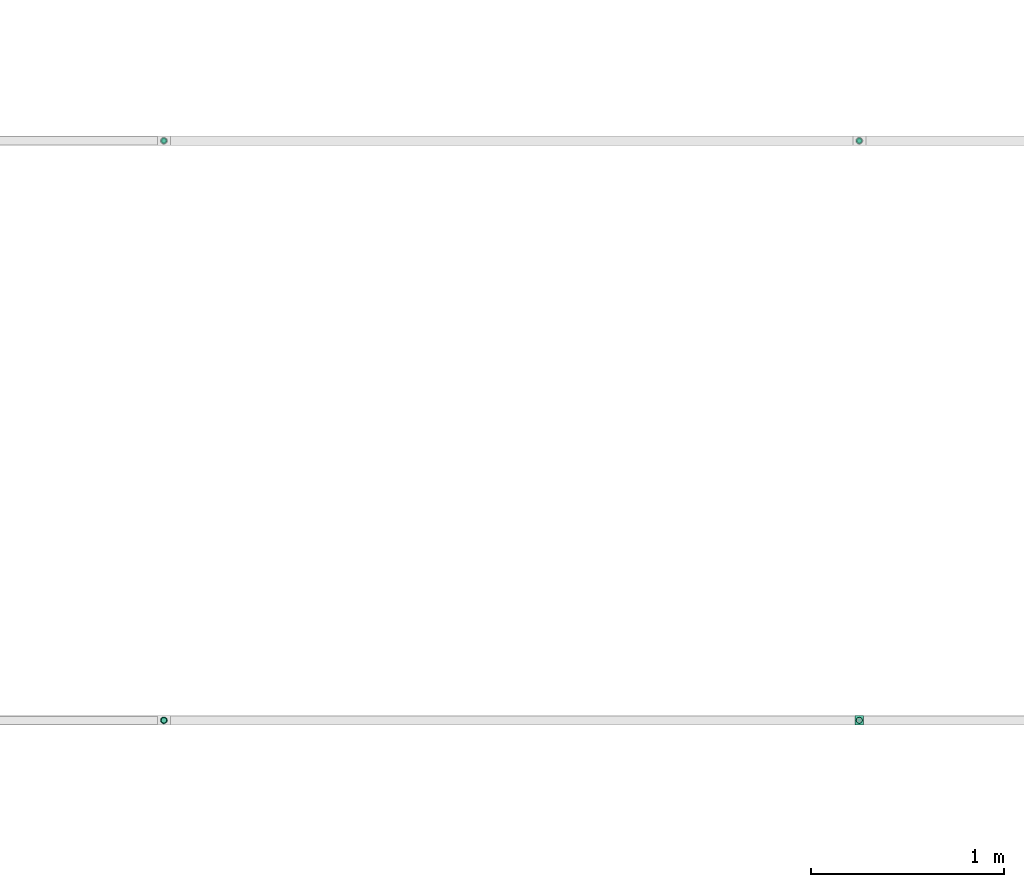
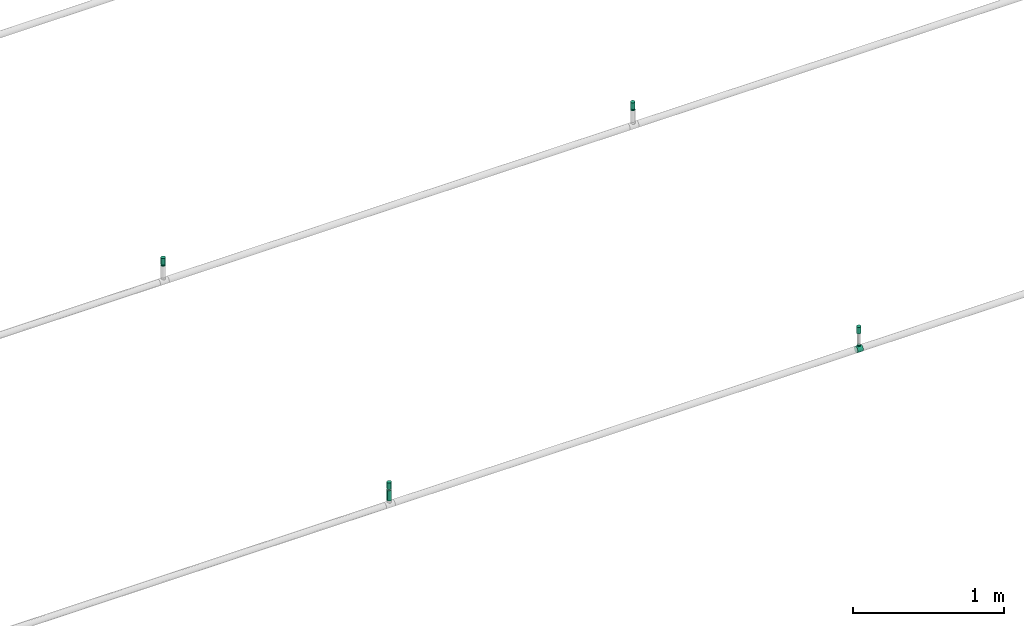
# One storey, part 9 of 14: 4 flow terminals, 3 flow fittings, 1 flow segment.
"""IFC2X3 building model written with IfcOpenShell, lengths in millimetres."""

import ifcopenshell
import ifcopenshell.guid

model = None  # the IFC model being written
_history = None  # IfcOwnerHistory: only IFC2X3 demands one
_inside = {}  # id of a spatial element -> (the spatial element, [elements in it])
_under = {}  # id of a project, library or spatial element -> (it, [spatial elements below it])
_declared = {}  # id of a project -> (the project, [libraries it declares])
_typed = {}  # id of a type object -> (the type object, [elements of that type])
_made_of = {}  # id of a material, layer set ... -> (it, [elements and type objects made of it])


def new_model(schema):
    """Start an empty IFC model of exactly this schema.

    Asked for "IFC4X3", IfcOpenShell would pick the latest addendum, in which some entities
    have other attributes; the version numbers below select the first issue.
    IFC2X3 requires an IfcOwnerHistory on every rooted entity: one is made here for all.
    """
    global model, _history
    if schema == "IFC4X3":
        model = ifcopenshell.file(schema_version=(4, 3, 0, 0))
    else:
        model = ifcopenshell.file(schema=schema)
    _inside.clear()
    _under.clear()
    _declared.clear()
    _typed.clear()
    _made_of.clear()
    _history = None
    if model.schema == "IFC2X3":
        org = make("IfcOrganization", Name="unknown")
        user = make(
            "IfcPersonAndOrganization",
            ThePerson=make("IfcPerson", FamilyName="unknown"),
            TheOrganization=org,
        )
        app = make(
            "IfcApplication",
            ApplicationDeveloper=org,
            Version="unknown",
            ApplicationFullName="unknown",
            ApplicationIdentifier="unknown",
        )
        _history = make(
            "IfcOwnerHistory",
            OwningUser=user,
            OwningApplication=app,
            ChangeAction="ADDED",
            CreationDate=0,
        )
    return model


def make(cls, **values):
    """One entity of the class cls with the attributes given. An attribute that is None is left unset."""
    return model.create_entity(
        cls, **{name: value for name, value in values.items() if value is not None}
    )


def entity(cls, *values):
    """Any entity or typed value of the class cls, its attributes in the order of the schema. None: left unset."""
    e = model.create_entity(cls)
    for i, value in enumerate(values):
        if value is not None:
            e[i] = value
    return e


def rooted(cls, **values):
    """An entity with a GlobalId (a new one), such as an element, a storey or a relation."""
    return make(cls, GlobalId=ifcopenshell.guid.new(), OwnerHistory=_history, **values)


def si_unit(unit_type, name, prefix=None):
    """IfcSIUnit, for example si_unit("LENGTHUNIT", "METRE", prefix="MILLI")."""
    return make("IfcSIUnit", UnitType=unit_type, Prefix=prefix, Name=name)


def converted_unit(unit_type, name, factor, base, dimensions=None, offset=None):
    """IfcConversionBasedUnit, such as the inch: factor (a typed value) times the base unit."""
    return make(
        "IfcConversionBasedUnit"
        if offset is None
        else "IfcConversionBasedUnitWithOffset",
        ConversionOffset=offset,
        Dimensions=None
        if dimensions is None
        else entity("IfcDimensionalExponents", *dimensions),
        UnitType=unit_type,
        Name=name,
        ConversionFactor=make(
            "IfcMeasureWithUnit", ValueComponent=factor, UnitComponent=base
        ),
    )


def derived_unit(unit_type, elements):
    """IfcDerivedUnit: a product of units, each with its exponent."""
    return make(
        "IfcDerivedUnit",
        Elements=[
            make("IfcDerivedUnitElement", Unit=unit, Exponent=power)
            for unit, power in elements
        ],
        UnitType=unit_type,
    )


def assignment(units):
    """IfcUnitAssignment: the units of a project."""
    return None if units is None else make("IfcUnitAssignment", Units=units)


def point(xyz):
    """IfcCartesianPoint."""
    return None if xyz is None else make("IfcCartesianPoint", Coordinates=xyz)


def direction(xyz):
    """IfcDirection."""
    return None if xyz is None else make("IfcDirection", DirectionRatios=xyz)


def frame(location, z_axis=None, x_axis=None):
    """IfcAxis2Placement3D, a coordinate frame: its origin and axes. An axis left out is left unset."""
    return make(
        "IfcAxis2Placement3D",
        Location=point(location),
        Axis=direction(z_axis),
        RefDirection=direction(x_axis),
    )


def frame_2d(location, x_axis=None):
    """IfcAxis2Placement2D, a coordinate frame in the plane: its origin and x axis."""
    return make(
        "IfcAxis2Placement2D", Location=point(location), RefDirection=direction(x_axis)
    )


def origin_with_axes():
    """The frame at (0, 0, 0) with the z axis (0, 0, 1) and the x axis (1, 0, 0) written out."""
    return frame((0.0, 0.0, 0.0), z_axis=(0.0, 0.0, 1.0), x_axis=(1.0, 0.0, 0.0))


def origin_2d_with_axis():
    """The frame at (0, 0) in the plane with the x axis (1, 0) written out."""
    return frame_2d((0.0, 0.0), x_axis=(1.0, 0.0))


def place(relative_to, where):
    """IfcLocalPlacement: puts the frame where relative to a parent placement (None: the world)."""
    return make(
        "IfcLocalPlacement", PlacementRelTo=relative_to, RelativePlacement=where
    )


def context(
    kind, dimensions, precision=None, world=None, true_north=None, identifier=None
):
    """IfcGeometricRepresentationContext, for example the 3D "Model" context."""
    return make(
        "IfcGeometricRepresentationContext",
        ContextIdentifier=identifier,
        ContextType=kind,
        CoordinateSpaceDimension=dimensions,
        Precision=precision,
        WorldCoordinateSystem=world,
        TrueNorth=true_north,
    )


def subcontext(parent, identifier, kind, view, scale=None):
    """IfcGeometricRepresentationSubContext, for example "Body" below "Model"."""
    return make(
        "IfcGeometricRepresentationSubContext",
        ContextIdentifier=identifier,
        ContextType=kind,
        ParentContext=parent,
        TargetScale=scale,
        TargetView=view,
    )


def project(units=None, contexts=None):
    """IfcProject with its units and contexts."""
    return rooted(
        "IfcProject",
        Name="project",
        RepresentationContexts=contexts,
        UnitsInContext=assignment(units),
    )


def spatial(cls, under=None, at=None, **own):
    """A site, building, storey or space (cls), placed at a placement, below another one or the project."""
    s = rooted(cls, ObjectPlacement=at, **own)
    if under is not None:
        _under.setdefault(under.id(), (under, []))[1].append(s)
    return s


def profile(cls, at=None, kind="AREA", **sizes):
    """A parametric profile (cls). Its sizes go by their IFC names, for example OverallWidth=200.0."""
    return make(cls, ProfileType=kind, Position=at, **sizes)


def hollow_circle(**sizes):
    """IfcCircleHollowProfileDef."""
    return profile("IfcCircleHollowProfileDef", **sizes)


def extrude(swept, where, along, depth):
    """IfcExtrudedAreaSolid: the profile swept, set in the frame where, extruded along a direction by depth."""
    return make(
        "IfcExtrudedAreaSolid",
        SweptArea=swept,
        Position=where,
        ExtrudedDirection=direction(along),
        Depth=depth,
    )


def faces_of(points, faces, orient=None, outer=None):
    """IfcFace entities. A face is a list of loops; a loop is a list of indices into points, from 0.

    orient and outer hold one flag for each loop. By default every Orientation is true, the
    first loop of a face is its IfcFaceOuterBound and the others are IfcFaceBound.
    """
    made = []
    for i, loops in enumerate(faces):
        bounds = []
        for j, loop in enumerate(loops):
            is_outer = j == 0 if outer is None else outer[i][j]
            bounds.append(
                make(
                    "IfcFaceOuterBound" if is_outer else "IfcFaceBound",
                    Bound=make("IfcPolyLoop", Polygon=[points[k] for k in loop]),
                    Orientation=True if orient is None else orient[i][j],
                )
            )
        made.append(make("IfcFace", Bounds=bounds))
    return made


def open_shell(faces, orient=None, outer=None):
    """The faces of one IfcOpenShell. surface_model builds it on its shared points."""
    return ("IfcOpenShell", faces, orient, outer)


def surface_model(cls, points, shells):
    """IfcFaceBasedSurfaceModel or IfcShellBasedSurfaceModel (cls): surfaces that need not close."""
    shared = [point(p) for p in points]
    made = [make(c, CfsFaces=faces_of(shared, fs, o, b)) for c, fs, o, b in shells]
    if cls == "IfcFaceBasedSurfaceModel":
        return make(cls, FbsmFaces=made)
    return make(cls, SbsmBoundary=made)


def shape(context_of_items, identifier, shape_type, items):
    """IfcShapeRepresentation: the items that make up one representation, for example the "Body"."""
    return make(
        "IfcShapeRepresentation",
        ContextOfItems=context_of_items,
        RepresentationIdentifier=identifier,
        RepresentationType=shape_type,
        Items=items,
    )


def source(mapping_origin, context_of_items, identifier, shape_type, items):
    """IfcRepresentationMap: a shape defined once, which mapped items show again and again."""
    return make(
        "IfcRepresentationMap",
        MappingOrigin=mapping_origin,
        MappedRepresentation=shape(context_of_items, identifier, shape_type, items),
    )


def transform(
    local_origin,
    x_axis=None,
    y_axis=None,
    z_axis=None,
    scale=None,
    scale2=None,
    scale3=None,
    uniform=True,
):
    """IfcCartesianTransformationOperator3D, or its non-uniform kind. x_axis, y_axis, z_axis: its Axis1, 2, 3."""
    if uniform:
        return make(
            "IfcCartesianTransformationOperator3D",
            Axis1=direction(x_axis),
            Axis2=direction(y_axis),
            LocalOrigin=point(local_origin),
            Scale=scale,
            Axis3=direction(z_axis),
        )
    return make(
        "IfcCartesianTransformationOperator3DnonUniform",
        Axis1=direction(x_axis),
        Axis2=direction(y_axis),
        LocalOrigin=point(local_origin),
        Scale=scale,
        Axis3=direction(z_axis),
        Scale2=scale2,
        Scale3=scale3,
    )


def mapped(mapping_source, mapping_target):
    """IfcMappedItem: shows the shape of a source again, moved by a transform."""
    return make(
        "IfcMappedItem", MappingSource=mapping_source, MappingTarget=mapping_target
    )


def made_of(thing, what):
    """Note that an element or type object is made of a material, layer set ...; save() writes the relation."""
    if what is not None:
        _made_of.setdefault(what.id(), (what, []))[1].append(thing)
    return thing


def type_object(cls, material=None, **own):
    """A type object (cls), such as IfcWallType, which elements share."""
    return made_of(rooted(cls, **own), material)


def element(
    cls,
    number,
    at=None,
    inside=None,
    cuts=None,
    type_object=None,
    material=None,
    context=None,
    identifier="Body",
    shape_type=None,
    held_by="IfcProductDefinitionShape",
    body=None,
    shapes=None,
    **own,
):
    """One element of the class cls, such as IfcWall. Its Tag is "e" and its number.

    at: its placement. inside: the storey or other place that contains it. cuts: it is an
    opening in that element (IfcRelVoidsElement). A single representation is given by context,
    identifier, shape_type and body (its items); several are given by shapes. held_by: the class
    of the entity that holds the representations. save() writes the other relations.
    """
    e = rooted(cls, Tag="e%d" % number, ObjectPlacement=at, **own)
    if body is not None:
        shapes = [shape(context, identifier, shape_type, body)]
    if shapes is not None:
        e.Representation = make(held_by, Representations=shapes)
    if inside is not None:
        _inside.setdefault(inside.id(), (inside, []))[1].append(e)
    if cuts is not None:
        rooted(
            "IfcRelVoidsElement", RelatingBuildingElement=cuts, RelatedOpeningElement=e
        )
    if type_object is not None:
        _typed.setdefault(type_object.id(), (type_object, []))[1].append(e)
    return made_of(e, material)


def aggregate(whole, parts):
    """IfcRelAggregates: a whole, such as a stair, and the parts it consists of."""
    return rooted("IfcRelAggregates", RelatingObject=whole, RelatedObjects=parts)


def save(model, path):
    """Write the relations noted so far, then the file.

    IfcRelAggregates (storeys below a building ...), IfcRelContainedInSpatialStructure (elements
    in a storey), IfcRelDefinesByType, IfcRelAssociatesMaterial and IfcRelDeclares: one each for
    every whole, place, type object, material and project.
    """
    for whole, parts in _under.values():
        aggregate(whole, parts)
    for where, things in _inside.values():
        rooted(
            "IfcRelContainedInSpatialStructure",
            RelatedElements=things,
            RelatingStructure=where,
        )
    for kind, things in _typed.values():
        rooted("IfcRelDefinesByType", RelatedObjects=things, RelatingType=kind)
    for what, things in _made_of.values():
        rooted("IfcRelAssociatesMaterial", RelatedObjects=things, RelatingMaterial=what)
    for by, libraries in _declared.values():
        rooted("IfcRelDeclares", RelatingContext=by, RelatedDefinitions=libraries)
    model.write(path)


model = new_model("IFC2X3")

# Units and contexts
model_context = context("Model", 3, precision=0.01, world=frame((0.0, 4.29681676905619e-09, 0.0)), true_north=direction((4.01073788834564e-13, 1.0)))
plan_context = context("Plan", 3, precision=0.01, world=frame((0.0, 4.29681676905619e-09, 0.0)), true_north=direction((4.01073788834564e-13, 1.0)))
body_context = subcontext(model_context, "Body", "Model", "MODEL_VIEW")
ifc_project = project(units=[converted_unit("PLANEANGLEUNIT", "DEGREE", entity("IfcPositiveLengthMeasure", 0.0174532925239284), si_unit("PLANEANGLEUNIT", "RADIAN"), dimensions=[0, 0, 0, 0, 0, 0, 0]), si_unit("AREAUNIT", "SQUARE_METRE"), si_unit("LENGTHUNIT", "METRE", prefix="MILLI"), si_unit("MASSUNIT", "GRAM", prefix="KILO"), si_unit("POWERUNIT", "WATT"), si_unit("PRESSUREUNIT", "PASCAL"), si_unit("FORCEUNIT", "NEWTON", prefix="KILO"), si_unit("ELECTRICVOLTAGEUNIT", "VOLT"), si_unit("ELECTRICCURRENTUNIT", "AMPERE"), si_unit("THERMODYNAMICTEMPERATUREUNIT", "DEGREE_CELSIUS"), si_unit("TIMEUNIT", "SECOND"), si_unit("VOLUMEUNIT", "CUBIC_METRE"), derived_unit("LINEARVELOCITYUNIT", [(si_unit("LENGTHUNIT", "METRE"), 1), (si_unit("TIMEUNIT", "SECOND"), -1)]), derived_unit("VOLUMETRICFLOWRATEUNIT", [(si_unit("VOLUMEUNIT", "CUBIC_METRE"), 1), (si_unit("TIMEUNIT", "SECOND"), -1)]), derived_unit("THERMALTRANSMITTANCEUNIT", [(si_unit("POWERUNIT", "WATT"), 1), (si_unit("THERMODYNAMICTEMPERATUREUNIT", "KELVIN"), -1), (si_unit("AREAUNIT", "SQUARE_METRE"), -1)]), derived_unit("SOUNDPRESSUREUNIT", [(si_unit("PRESSUREUNIT", "PASCAL"), 1)])], contexts=[model_context, plan_context])

# Site, building, storey
site_placement = place(None, frame((0.0, -4.29681676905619e-09, 0.0), z_axis=(0.0, 0.0, 1.0), x_axis=(1.0, 0.0, 0.0)))
site = spatial("IfcSite", under=ifc_project, at=site_placement, CompositionType="ELEMENT")
building_placement = place(site_placement, frame((0.0, 4.29681676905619e-09, 0.0), z_axis=(0.0, 0.0, 1.0), x_axis=(1.0, 0.0, 0.0)))
building = spatial("IfcBuilding", under=site, at=building_placement, Name="mc-building", CompositionType="ELEMENT")
storey_placement = place(building_placement, frame((0.0, 0.0, 204000.0), z_axis=(0.0, 0.0, 1.0), x_axis=(1.0, 0.0, 0.0)))
storey = spatial("IfcBuildingStorey", under=building, at=storey_placement, Name="Nivå D", CompositionType="ELEMENT", Elevation=204000.0)

# Flow fittings
pipe_fitting_type_1 = type_object("IfcPipeFittingType", Name="magi_pipe_fe_reducer_centric_short_NOR", PredefinedType="TRANSITION")
shared_shape_1 = source(origin_with_axes(), body_context, "Body", "SurfaceModel", [
    surface_model("IfcShellBasedSurfaceModel", [(14.4, 5.35, -9.26647), (14.4, 0.0, -10.7), (14.4, 2.76936, -10.33541), (14.4, 10.33541, -2.76936), (14.4, 7.56604, -7.56604), (14.4, -5.35, -9.26647), (14.4, 9.26647, -5.35), (14.4, -9.26647, 5.35), (14.4, -2.76936, -10.33541), (14.4, -7.56604, -7.56604), (14.4, -10.33541, -2.76936), (14.4, -9.26647, -5.35), (14.4, 10.33541, 2.76936), (14.4, 10.7, 0.0), (14.4, 9.26647, 5.35), (14.4, 7.56604, 7.56604), (14.4, 2.76936, 10.33541), (14.4, 0.0, 10.7), (14.4, 5.35, 9.26647), (14.4, -10.33541, 2.76936), (14.4, -10.7, 0.0), (14.4, -7.56604, 7.56604), (14.4, -2.76936, 10.33541), (14.4, -5.35, 9.26647), (12.4, 0.0, 10.7), (12.4, 2.76936, 10.33541), (12.4, 5.35, 9.26647), (12.4, 7.56604, 7.56604), (12.4, 9.26647, 5.35), (12.4, 10.33541, 2.76936), (12.4, -10.33541, 2.76936), (12.4, 10.33541, -2.76936), (12.4, -2.76936, 10.33541), (12.4, -7.56604, 7.56604), (12.4, -5.35, 9.26647), (12.4, -9.26647, 5.35), (12.4, -10.33541, -2.76936), (12.4, -10.7, 0.0), (12.4, 2.76936, -10.33541), (12.4, 9.26647, -5.35), (12.4, 7.56604, -7.56604), (12.4, 5.35, -9.26647), (12.4, -7.56604, -7.56604), (12.4, -9.26647, -5.35), (12.4, -5.35, -9.26647), (12.4, 0.0, -10.7), (12.4, -2.76936, -10.33541), (12.4, 10.7, 0.0), (-2.0, 11.9501, 11.9501), (-2.0, 0.0, 16.9), (-2.0, 4.37404, 16.32415), (-2.0, 8.45, 14.63583), (-2.0, 14.63583, 8.45), (-2.0, 16.32415, 4.37404), (-2.0, -16.32415, 4.37404), (-2.0, -8.45, 14.63583), (-2.0, -14.63583, 8.45), (-2.0, -11.9501, 11.9501), (-2.0, -4.37404, 16.32415), (-2.0, -16.32415, -4.37404), (-2.0, -16.9, 0.0), (-2.0, -8.45, -14.63583), (-2.0, 16.32415, -4.37404), (-2.0, 11.9501, -11.9501), (-2.0, 14.63583, -8.45), (-2.0, 8.45, -14.63583), (-2.0, 4.37404, -16.32415), (-2.0, 0.0, -16.9), (-2.0, -11.9501, -11.9501), (-2.0, -14.63583, -8.45), (-2.0, -4.37404, -16.32415), (-2.0, 16.9, 0.0), (0.0, 4.37404, -16.32415), (0.0, 8.45, -14.63583), (0.0, 11.9501, -11.9501), (0.0, 0.0, -16.9), (0.0, 16.32415, -4.37404), (0.0, 16.32415, 4.37404), (0.0, 14.63583, -8.45), (0.0, -8.45, -14.63583), (0.0, -4.37404, -16.32415), (0.0, -11.9501, -11.9501), (0.0, -16.32415, -4.37404), (0.0, -14.63583, -8.45), (0.0, -16.32415, 4.37404), (0.0, 16.9, 0.0), (0.0, 14.63583, 8.45), (0.0, 11.9501, 11.9501), (0.0, 4.37404, 16.32415), (0.0, 8.45, 14.63583), (0.0, 0.0, 16.9), (0.0, -14.63583, 8.45), (0.0, -16.9, 0.0), (0.0, -8.45, 14.63583), (0.0, -11.9501, 11.9501), (0.0, -4.37404, 16.32415), (12.4, 9.3625, -2.31662), (0.0, 14.42505, -5.97505), (0.0, 15.66253, -2.98753), (12.4, -6.6875, -6.94985), (0.0, -13.18758, -8.96258), (0.0, 2.98753, -15.66253), (12.4, 0.0, -9.26647), (12.4, 6.6875, -6.94985), (0.0, 8.96258, -13.18758), (12.4, -9.3625, -2.31662), (0.0, -15.66253, -2.98753), (0.0, -14.42505, -5.97505), (0.0, 5.97505, -14.42505), (0.0, -2.98753, -15.66253), (0.0, -8.96258, -13.18758), (0.0, 13.18758, -8.96258), (12.4, 8.025, -4.63324), (12.4, -2.675, -9.26647), (12.4, 2.675, -9.26647), (0.0, -5.97505, -14.42505), (12.4, -8.025, -4.63324), (12.4, -9.3625, 2.31662), (0.0, -14.42505, 5.97505), (0.0, -15.66253, 2.98753), (12.4, 6.6875, 6.94985), (0.0, 13.18758, 8.96258), (0.0, -2.98753, 15.66253), (12.4, 0.0, 9.26647), (12.4, -6.6875, 6.94985), (0.0, -8.96258, 13.18758), (12.4, 9.3625, 2.31662), (0.0, 15.66253, 2.98753), (0.0, 14.42505, 5.97505), (0.0, -5.97505, 14.42505), (0.0, 2.98753, 15.66253), (0.0, 8.96258, 13.18758), (0.0, -13.18758, 8.96258), (12.4, -8.025, 4.63324), (12.4, 2.675, 9.26647), (12.4, -2.675, 9.26647), (0.0, 5.97505, 14.42505), (12.4, 8.025, 4.63324)], [open_shell([[[0, 1, 2]], [[3, 0, 4]], [[5, 0, 3]], [[3, 4, 6]], [[7, 5, 3]], [[1, 5, 8]], [[1, 0, 5]], [[9, 10, 11]], [[10, 9, 5]], [[5, 7, 10]], [[12, 3, 13]], [[12, 14, 15]], [[3, 15, 7]], [[16, 17, 15]], [[16, 15, 18]], [[7, 15, 17]], [[10, 19, 20]], [[7, 19, 10]], [[21, 22, 23]], [[22, 21, 7]], [[17, 22, 7]], [[3, 12, 15]], [[24, 25, 26]], [[24, 26, 27]], [[27, 28, 29]], [[24, 27, 30]], [[31, 30, 27]], [[32, 33, 34]], [[33, 32, 30]], [[33, 30, 35]], [[32, 24, 30]], [[30, 36, 37]], [[31, 27, 29]], [[36, 30, 31]], [[38, 31, 39]], [[40, 41, 38]], [[40, 38, 39]], [[36, 31, 38]], [[36, 42, 43]], [[42, 36, 44]], [[44, 45, 46]], [[44, 36, 38]], [[38, 45, 44]], [[31, 29, 47]], [[36, 10, 37]], [[43, 11, 36]], [[5, 42, 44]], [[43, 42, 9]], [[8, 44, 46]], [[36, 11, 10]], [[10, 20, 37]], [[8, 5, 44]], [[9, 42, 5]], [[9, 11, 43]], [[1, 8, 46]], [[46, 45, 1]], [[38, 2, 45]], [[41, 0, 38]], [[6, 40, 39]], [[41, 40, 4]], [[3, 39, 31]], [[41, 4, 0]], [[0, 2, 38]], [[13, 3, 31]], [[6, 39, 3]], [[6, 4, 40]], [[47, 13, 31]], [[45, 2, 1]], [[29, 12, 47]], [[28, 14, 29]], [[18, 27, 26]], [[28, 27, 15]], [[16, 26, 25]], [[29, 14, 12]], [[12, 13, 47]], [[16, 18, 26]], [[15, 27, 18]], [[15, 14, 28]], [[17, 16, 25]], [[25, 24, 17]], [[32, 22, 24]], [[34, 23, 32]], [[7, 33, 35]], [[34, 33, 21]], [[19, 35, 30]], [[34, 21, 23]], [[23, 22, 32]], [[20, 19, 30]], [[7, 35, 19]], [[7, 21, 33]], [[37, 20, 30]], [[24, 22, 17]], [[48, 49, 50]], [[48, 50, 51]], [[48, 52, 53]], [[48, 53, 49]], [[49, 53, 54]], [[55, 56, 57]], [[55, 58, 49]], [[56, 55, 49]], [[49, 54, 56]], [[54, 59, 60]], [[54, 53, 61]], [[53, 62, 63]], [[63, 62, 64]], [[63, 65, 66]], [[61, 53, 63]], [[67, 63, 66]], [[59, 68, 69]], [[68, 59, 61]], [[61, 67, 70]], [[59, 54, 61]], [[63, 67, 61]], [[53, 71, 62]], [[72, 73, 74]], [[75, 72, 74]], [[74, 76, 77]], [[76, 74, 78]], [[74, 77, 79]], [[75, 79, 80]], [[75, 74, 79]], [[81, 82, 83]], [[82, 81, 79]], [[79, 84, 82]], [[77, 76, 85]], [[77, 86, 87]], [[77, 87, 88]], [[88, 84, 79]], [[88, 87, 89]], [[84, 88, 90]], [[90, 91, 84]], [[92, 82, 84]], [[91, 93, 94]], [[91, 90, 93]], [[93, 90, 95]], [[79, 77, 88]], [[59, 82, 60]], [[69, 83, 59]], [[79, 68, 61]], [[69, 68, 81]], [[80, 61, 70]], [[59, 83, 82]], [[82, 92, 60]], [[80, 79, 61]], [[81, 68, 79]], [[81, 83, 69]], [[75, 80, 70]], [[70, 67, 75]], [[66, 72, 67]], [[65, 73, 66]], [[78, 63, 64]], [[65, 63, 74]], [[76, 64, 62]], [[65, 74, 73]], [[73, 72, 66]], [[85, 76, 62]], [[78, 64, 76]], [[78, 74, 63]], [[71, 85, 62]], [[67, 72, 75]], [[53, 77, 71]], [[52, 86, 53]], [[89, 48, 51]], [[52, 48, 87]], [[88, 51, 50]], [[53, 86, 77]], [[77, 85, 71]], [[88, 89, 51]], [[87, 48, 89]], [[87, 86, 52]], [[90, 88, 50]], [[50, 49, 90]], [[58, 95, 49]], [[55, 93, 58]], [[91, 57, 56]], [[55, 57, 94]], [[84, 56, 54]], [[55, 94, 93]], [[93, 95, 58]], [[92, 84, 54]], [[91, 56, 84]], [[91, 94, 57]], [[60, 92, 54]], [[49, 95, 90]], [[26, 34, 47]], [[47, 34, 44]], [[44, 41, 47]], [[44, 34, 37]], [[90, 87, 92]], [[92, 94, 90]], [[87, 74, 92]], [[75, 92, 74]], [[81, 92, 75]], [[74, 87, 85]], [[96, 97, 98]], [[81, 99, 100]], [[101, 102, 75]], [[98, 85, 47]], [[74, 103, 104]], [[104, 103, 41]], [[105, 106, 107]], [[41, 108, 104]], [[102, 109, 75]], [[110, 99, 81]], [[47, 96, 98]], [[103, 111, 112]], [[109, 102, 113]], [[37, 92, 106]], [[102, 101, 114]], [[110, 115, 44]], [[96, 112, 97]], [[107, 116, 105]], [[37, 106, 105]], [[113, 115, 109]], [[44, 115, 113]], [[116, 107, 100]], [[108, 41, 114]], [[111, 103, 74]], [[111, 97, 112]], [[99, 110, 44]], [[116, 100, 99]], [[101, 108, 114]], [[117, 118, 119]], [[87, 120, 121]], [[122, 123, 90]], [[119, 92, 37]], [[94, 124, 125]], [[125, 124, 34]], [[126, 127, 128]], [[34, 129, 125]], [[123, 130, 90]], [[131, 120, 87]], [[37, 117, 119]], [[124, 132, 133]], [[130, 123, 134]], [[47, 85, 127]], [[123, 122, 135]], [[131, 136, 26]], [[117, 133, 118]], [[128, 137, 126]], [[47, 127, 126]], [[134, 136, 130]], [[26, 136, 134]], [[137, 128, 121]], [[129, 34, 135]], [[132, 124, 94]], [[132, 118, 133]], [[120, 131, 26]], [[137, 121, 120]], [[122, 129, 135]]])]),
])
flow_fitting_1_placement = place(storey_placement, frame((601000.0, 693802.46783, 6260.64799999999), z_axis=(0.0, 1.0, 0.0), x_axis=(0.0, 0.0, 1.0)))
element("IfcFlowFitting", 1, at=flow_fitting_1_placement, inside=storey, type_object=pipe_fitting_type_1, Name="magi_pipe_fe_reducer_centric_short_NOR", context=body_context, shape_type="MappedRepresentation", body=[
    mapped(shared_shape_1, transform((0.0, 0.0, 0.0), scale=1.0)),
])
shared_shape_2 = source(origin_with_axes(), body_context, "Body", "SurfaceModel", [
    surface_model("IfcShellBasedSurfaceModel", [(14.4, 4.37404, -16.32415), (14.4, 8.45, -14.63583), (14.4, 11.9501, -11.9501), (14.4, -8.45, -14.63583), (14.4, 16.32415, -4.37404), (14.4, 16.32415, 4.37404), (14.4, 14.63583, -8.45), (14.4, 0.0, -16.9), (14.4, -4.37404, -16.32415), (14.4, -11.9501, -11.9501), (14.4, -16.32415, -4.37404), (14.4, -14.63583, -8.45), (14.4, -16.32415, 4.37404), (14.4, 16.9, 0.0), (14.4, 14.63583, 8.45), (14.4, 11.9501, 11.9501), (14.4, 4.37404, 16.32415), (14.4, 8.45, 14.63583), (14.4, 0.0, 16.9), (14.4, -14.63583, 8.45), (14.4, -16.9, 0.0), (14.4, -8.45, 14.63583), (14.4, -11.9501, 11.9501), (14.4, -4.37404, 16.32415), (12.4, 4.37404, 16.32415), (12.4, -14.63583, 8.45), (12.4, 0.0, 16.9), (12.4, 16.32415, 4.37404), (12.4, 8.45, 14.63583), (12.4, 11.9501, 11.9501), (12.4, 14.63583, 8.45), (12.4, -8.45, 14.63583), (12.4, -11.9501, 11.9501), (12.4, -4.37404, 16.32415), (12.4, -16.32415, 4.37404), (12.4, -16.32415, -4.37404), (12.4, -16.9, 0.0), (12.4, -8.45, -14.63583), (12.4, 16.32415, -4.37404), (12.4, 11.9501, -11.9501), (12.4, 14.63583, -8.45), (12.4, 8.45, -14.63583), (12.4, 4.37404, -16.32415), (12.4, 0.0, -16.9), (12.4, -11.9501, -11.9501), (12.4, -14.63583, -8.45), (12.4, -4.37404, -16.32415), (12.4, 16.9, 0.0), (-2.0, 10.33541, 2.76936), (-2.0, 0.0, 10.7), (-2.0, 2.76936, 10.33541), (-2.0, 7.56604, 7.56604), (-2.0, 5.35, 9.26647), (-2.0, 9.26647, 5.35), (-2.0, -9.26647, 5.35), (-2.0, -2.76936, 10.33541), (-2.0, -7.56604, 7.56604), (-2.0, -5.35, 9.26647), (-2.0, -10.33541, 2.76936), (-2.0, -10.33541, -2.76936), (-2.0, -10.7, 0.0), (-2.0, 10.33541, -2.76936), (-2.0, 7.56604, -7.56604), (-2.0, 9.26647, -5.35), (-2.0, 5.35, -9.26647), (-2.0, -5.35, -9.26647), (-2.0, 2.76936, -10.33541), (-2.0, -7.56604, -7.56604), (-2.0, -9.26647, -5.35), (-2.0, 0.0, -10.7), (-2.0, -2.76936, -10.33541), (-2.0, 10.7, 0.0), (0.0, 5.35, -9.26647), (0.0, 0.0, -10.7), (0.0, 2.76936, -10.33541), (0.0, 10.33541, -2.76936), (0.0, 7.56604, -7.56604), (0.0, -5.35, -9.26647), (0.0, 9.26647, -5.35), (0.0, -9.26647, 5.35), (0.0, -2.76936, -10.33541), (0.0, -7.56604, -7.56604), (0.0, -10.33541, -2.76936), (0.0, -9.26647, -5.35), (0.0, 10.33541, 2.76936), (0.0, 10.7, 0.0), (0.0, 9.26647, 5.35), (0.0, 7.56604, 7.56604), (0.0, 2.76936, 10.33541), (0.0, 0.0, 10.7), (0.0, 5.35, 9.26647), (0.0, -10.33541, 2.76936), (0.0, -10.7, 0.0), (0.0, -7.56604, 7.56604), (0.0, -2.76936, 10.33541), (0.0, -5.35, 9.26647), (0.0, -9.3625, -2.31662), (12.4, -14.42505, -5.97505), (12.4, -15.66253, -2.98753), (0.0, 6.6875, -6.94985), (12.4, 8.96258, -13.18758), (0.0, -6.6875, -6.94985), (12.4, -8.96258, -13.18758), (0.0, 9.3625, -2.31662), (12.4, 15.66253, -2.98753), (12.4, 14.42505, -5.97505), (12.4, -5.97505, -14.42505), (12.4, 5.97505, -14.42505), (0.0, 2.675, -9.26647), (12.4, 13.18758, -8.96258), (0.0, -2.675, -9.26647), (12.4, -13.18758, -8.96258), (0.0, -8.025, -4.63324), (12.4, 2.98753, -15.66253), (0.0, 0.0, -9.26647), (12.4, -2.98753, -15.66253), (0.0, 8.025, -4.63324), (0.0, 9.3625, 2.31662), (12.4, 14.42505, 5.97505), (12.4, 15.66253, 2.98753), (0.0, -6.6875, 6.94985), (12.4, -8.96258, 13.18758), (0.0, 6.6875, 6.94985), (12.4, 8.96258, 13.18758), (0.0, -9.3625, 2.31662), (12.4, -15.66253, 2.98753), (12.4, -14.42505, 5.97505), (12.4, 5.97505, 14.42505), (12.4, -5.97505, 14.42505), (0.0, -2.675, 9.26647), (12.4, -13.18758, 8.96258), (0.0, 2.675, 9.26647), (12.4, 13.18758, 8.96258), (0.0, 8.025, 4.63324), (12.4, -2.98753, 15.66253), (0.0, 0.0, 9.26647), (12.4, 2.98753, 15.66253), (0.0, -8.025, 4.63324)], [open_shell([[[0, 1, 2]], [[3, 0, 2]], [[2, 4, 5]], [[4, 2, 6]], [[2, 5, 3]], [[7, 3, 8]], [[7, 0, 3]], [[9, 10, 11]], [[10, 9, 3]], [[3, 12, 10]], [[5, 4, 13]], [[5, 14, 15]], [[5, 15, 16]], [[16, 12, 3]], [[16, 15, 17]], [[12, 16, 18]], [[18, 19, 12]], [[20, 10, 12]], [[19, 21, 22]], [[19, 18, 21]], [[21, 18, 23]], [[3, 5, 16]], [[24, 25, 26]], [[27, 24, 28]], [[29, 30, 27]], [[29, 27, 28]], [[25, 24, 27]], [[31, 25, 32]], [[31, 33, 26]], [[26, 25, 31]], [[34, 25, 27]], [[34, 35, 36]], [[34, 27, 37]], [[27, 38, 39]], [[39, 38, 40]], [[39, 41, 42]], [[37, 27, 39]], [[42, 43, 39]], [[35, 44, 45]], [[44, 35, 37]], [[37, 43, 46]], [[35, 34, 37]], [[39, 43, 37]], [[38, 27, 47]], [[35, 10, 36]], [[45, 11, 35]], [[3, 44, 37]], [[45, 44, 9]], [[8, 37, 46]], [[35, 11, 10]], [[10, 20, 36]], [[8, 3, 37]], [[9, 44, 3]], [[9, 11, 45]], [[7, 8, 46]], [[46, 43, 7]], [[42, 0, 43]], [[41, 1, 42]], [[6, 39, 40]], [[41, 39, 2]], [[4, 40, 38]], [[41, 2, 1]], [[1, 0, 42]], [[13, 4, 38]], [[6, 40, 4]], [[6, 2, 39]], [[47, 13, 38]], [[43, 0, 7]], [[27, 5, 47]], [[30, 14, 27]], [[17, 29, 28]], [[30, 29, 15]], [[16, 28, 24]], [[27, 14, 5]], [[5, 13, 47]], [[16, 17, 28]], [[15, 29, 17]], [[15, 14, 30]], [[18, 16, 24]], [[24, 26, 18]], [[33, 23, 26]], [[31, 21, 33]], [[19, 32, 25]], [[31, 32, 22]], [[12, 25, 34]], [[31, 22, 21]], [[21, 23, 33]], [[20, 12, 34]], [[19, 25, 12]], [[19, 22, 32]], [[36, 20, 34]], [[26, 23, 18]], [[48, 49, 50]], [[51, 50, 52]], [[51, 53, 48]], [[51, 48, 50]], [[49, 48, 54]], [[55, 56, 57]], [[56, 55, 54]], [[58, 59, 60]], [[54, 55, 49]], [[58, 54, 59]], [[54, 48, 61]], [[59, 54, 61]], [[62, 61, 63]], [[59, 62, 64]], [[61, 62, 59]], [[65, 64, 66]], [[59, 67, 68]], [[67, 59, 65]], [[65, 69, 70]], [[65, 59, 64]], [[66, 69, 65]], [[61, 48, 71]], [[72, 73, 74]], [[75, 72, 76]], [[77, 72, 75]], [[75, 76, 78]], [[79, 77, 75]], [[73, 77, 80]], [[73, 72, 77]], [[81, 82, 83]], [[82, 81, 77]], [[77, 79, 82]], [[84, 75, 85]], [[84, 86, 87]], [[75, 87, 79]], [[88, 89, 87]], [[88, 87, 90]], [[79, 87, 89]], [[82, 91, 92]], [[79, 91, 82]], [[93, 94, 95]], [[94, 93, 79]], [[89, 94, 79]], [[75, 84, 87]], [[59, 82, 60]], [[68, 83, 59]], [[77, 67, 65]], [[68, 67, 81]], [[80, 65, 70]], [[59, 83, 82]], [[82, 92, 60]], [[80, 77, 65]], [[81, 67, 77]], [[81, 83, 68]], [[73, 80, 70]], [[70, 69, 73]], [[66, 74, 69]], [[64, 72, 66]], [[78, 62, 63]], [[64, 62, 76]], [[75, 63, 61]], [[64, 76, 72]], [[72, 74, 66]], [[85, 75, 61]], [[78, 63, 75]], [[78, 76, 62]], [[71, 85, 61]], [[69, 74, 73]], [[48, 84, 71]], [[53, 86, 48]], [[90, 51, 52]], [[53, 51, 87]], [[88, 52, 50]], [[48, 86, 84]], [[84, 85, 71]], [[88, 90, 52]], [[87, 51, 90]], [[87, 86, 53]], [[89, 88, 50]], [[50, 49, 89]], [[55, 94, 49]], [[57, 95, 55]], [[79, 56, 54]], [[57, 56, 93]], [[91, 54, 58]], [[57, 93, 95]], [[95, 94, 55]], [[92, 91, 58]], [[79, 54, 91]], [[79, 93, 56]], [[60, 92, 58]], [[49, 94, 89]], [[29, 26, 39]], [[39, 47, 29]], [[36, 26, 32]], [[36, 44, 43]], [[43, 39, 36]], [[36, 39, 26]], [[92, 95, 77]], [[85, 95, 90]], [[85, 72, 77]], [[85, 77, 95]], [[96, 97, 98]], [[92, 96, 98]], [[99, 100, 72]], [[98, 36, 92]], [[44, 101, 102]], [[101, 77, 102]], [[103, 104, 105]], [[85, 47, 104]], [[77, 106, 102]], [[107, 108, 72]], [[109, 39, 99]], [[106, 77, 110]], [[101, 111, 112]], [[113, 114, 108]], [[100, 99, 39]], [[110, 115, 106]], [[99, 116, 109]], [[100, 107, 72]], [[96, 112, 97]], [[105, 116, 103]], [[85, 104, 103]], [[108, 107, 113]], [[113, 43, 114]], [[116, 105, 109]], [[114, 115, 110]], [[43, 115, 114]], [[111, 101, 44]], [[111, 97, 112]], [[117, 118, 119]], [[85, 117, 119]], [[120, 121, 95]], [[119, 47, 85]], [[29, 122, 123]], [[122, 90, 123]], [[124, 125, 126]], [[92, 36, 125]], [[90, 127, 123]], [[128, 129, 95]], [[130, 32, 120]], [[127, 90, 131]], [[122, 132, 133]], [[134, 135, 129]], [[121, 120, 32]], [[131, 136, 127]], [[120, 137, 130]], [[121, 128, 95]], [[117, 133, 118]], [[126, 137, 124]], [[92, 125, 124]], [[129, 128, 134]], [[134, 26, 135]], [[137, 126, 130]], [[135, 136, 131]], [[26, 136, 135]], [[132, 122, 29]], [[132, 118, 133]]])]),
])
flow_fitting_2_placement = place(storey_placement, frame((604600.0, 693802.46783, 6273.04800000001), z_axis=(0.0, 1.0, 0.0), x_axis=(0.0, 0.0, -1.0)))
element("IfcFlowFitting", 2, at=flow_fitting_2_placement, inside=storey, type_object=pipe_fitting_type_1, Name="magi_pipe_fe_reducer_centric_short_NOR", context=body_context, shape_type="MappedRepresentation", body=[
    mapped(shared_shape_2, transform((0.0, 0.0, 0.0), scale=1.0)),
])
pipe_fitting_type_2 = type_object("IfcPipeFittingType", Name="magi_pipe_fe_tee_centric_90_NOR", PredefinedType="JUNCTION")
shared_shape_3 = source(origin_with_axes(), body_context, "Body", "SurfaceModel", [
    surface_model("IfcShellBasedSurfaceModel", [(-21.4, 0.0, -24.2), (-21.4, -6.26342, -23.37541), (-21.4, 6.26342, -23.37541), (-21.4, 12.1, -20.95781), (-21.4, 20.95781, -12.1), (-21.4, -24.2, 0.0), (-21.4, 17.11198, -17.11198), (-21.4, -23.37541, 6.26342), (-21.4, -12.1, -20.95781), (-21.4, -17.11198, -17.11198), (-21.4, -23.37541, -6.26342), (-21.4, -20.95781, -12.1), (-21.4, 23.37541, -6.26342), (-21.4, 20.95781, 12.1), (-21.4, 23.37541, 6.26342), (-21.4, 24.2, 0.0), (-21.4, 12.1, 20.95781), (-21.4, -17.11198, 17.11198), (-21.4, 17.11198, 17.11198), (-21.4, 6.26342, 23.37541), (-21.4, -20.95781, 12.1), (-21.4, -6.26342, 23.37541), (-21.4, 0.0, 24.2), (-21.4, -12.1, 20.95781), (21.4, 6.26342, -23.37541), (21.4, -6.26342, -23.37541), (21.4, 0.0, -24.2), (21.4, 17.11198, -17.11198), (21.4, 12.1, -20.95781), (21.4, -23.37541, -6.26342), (21.4, 20.95781, -12.1), (21.4, 23.37541, -6.26342), (21.4, -17.11198, -17.11198), (21.4, -12.1, -20.95781), (21.4, -20.95781, -12.1), (21.4, -24.2, 0.0), (21.4, 24.2, 0.0), (21.4, 23.37541, 6.26342), (21.4, 20.95781, 12.1), (21.4, -23.37541, 6.26342), (21.4, -17.11198, 17.11198), (21.4, 12.1, 20.95781), (21.4, 17.11198, 17.11198), (21.4, 6.26342, 23.37541), (21.4, -20.95781, 12.1), (21.4, -12.1, 20.95781), (21.4, 0.0, 24.2), (21.4, -6.26342, 23.37541), (21.4, -23.7877, 3.13171), (10.04208, -23.91638, 3.69412), (10.7, -24.2, 0.0), (8.18481, -23.19787, 6.89194), (1.87869, -21.78714, 10.53378), (21.4, -22.16661, 9.18171), (5.37451, -22.36147, 9.25228), (-5.37543, -22.36169, 9.25174), (-21.4, -22.16661, 9.18171), (-10.04239, -23.91651, 3.69329), (-21.4, -23.7877, 3.13171), (-10.7, -24.2, 0.0), (-8.18762, -23.19886, 6.8886), (-1.88166, -21.7874, 10.53325), (1.87869, -21.78714, -10.53378), (-21.4, -23.7877, -3.13171), (-10.04239, -23.91651, -3.69329), (5.37451, -22.36147, -9.25228), (8.18481, -23.19787, -6.89194), (21.4, -22.16661, -9.18171), (21.4, -23.7877, -3.13171), (10.04208, -23.91638, -3.69412), (-1.88166, -21.7874, -10.53325), (-5.37543, -22.36169, -9.25174), (-8.18762, -23.19886, -6.8886), (-21.4, -22.16661, -9.18171), (0.0, -36.3, -10.7), (2.76936, -36.3, -10.33541), (5.35, -36.3, -9.26647), (7.56604, -36.3, -7.56604), (10.33541, -36.3, 2.76936), (9.26647, -36.3, -5.35), (-7.56604, -36.3, -7.56604), (2.76936, -36.3, 10.33541), (-10.7, -36.3, 0.0), (-5.35, -36.3, -9.26647), (-2.76936, -36.3, -10.33541), (-9.26647, -36.3, -5.35), (-10.33541, -36.3, -2.76936), (10.7, -36.3, 0.0), (10.33541, -36.3, -2.76936), (9.26647, -36.3, 5.35), (5.35, -36.3, 9.26647), (7.56604, -36.3, 7.56604), (0.0, -36.3, 10.7), (-10.33541, -36.3, 2.76936), (-7.56604, -36.3, 7.56604), (-9.26647, -36.3, 5.35), (-2.76936, -36.3, 10.33541), (-5.35, -36.3, 9.26647)], [open_shell([[[0, 1, 2]], [[3, 2, 4]], [[4, 2, 5]], [[6, 3, 4]], [[4, 5, 7]], [[8, 9, 1]], [[10, 1, 9]], [[11, 10, 9]], [[5, 1, 10]], [[5, 2, 1]], [[7, 12, 4]], [[13, 14, 15]], [[13, 15, 7]], [[16, 13, 17]], [[18, 13, 16]], [[19, 16, 17]], [[20, 17, 7]], [[17, 13, 7]], [[21, 22, 23]], [[17, 23, 22]], [[17, 22, 19]], [[12, 7, 15]], [[24, 25, 26]], [[27, 24, 28]], [[29, 24, 30]], [[30, 24, 27]], [[29, 30, 31]], [[25, 32, 33]], [[32, 25, 34]], [[24, 34, 25]], [[24, 29, 34]], [[31, 35, 29]], [[31, 36, 35]], [[36, 37, 38]], [[39, 36, 38]], [[40, 38, 41]], [[41, 38, 42]], [[40, 41, 43]], [[39, 40, 44]], [[39, 38, 40]], [[45, 46, 47]], [[46, 45, 40]], [[43, 46, 40]], [[36, 39, 35]], [[48, 39, 49]], [[50, 35, 48]], [[39, 51, 49]], [[44, 40, 52]], [[50, 48, 49]], [[39, 53, 51]], [[52, 54, 44]], [[40, 17, 52]], [[54, 53, 44]], [[55, 20, 56]], [[57, 58, 59]], [[5, 59, 58]], [[57, 60, 7]], [[55, 61, 20]], [[51, 53, 54]], [[7, 60, 56]], [[20, 61, 17]], [[56, 60, 55]], [[61, 52, 17]], [[57, 7, 58]], [[40, 23, 17]], [[22, 47, 46]], [[21, 45, 47]], [[19, 46, 43]], [[38, 37, 14]], [[18, 41, 42]], [[13, 42, 38]], [[43, 41, 16]], [[15, 37, 36]], [[23, 45, 21]], [[21, 47, 22]], [[19, 22, 46]], [[43, 16, 19]], [[16, 41, 18]], [[13, 18, 42]], [[14, 13, 38]], [[37, 15, 14]], [[45, 23, 40]], [[4, 31, 30]], [[12, 36, 31]], [[6, 30, 27]], [[26, 25, 1]], [[2, 28, 24]], [[0, 24, 26]], [[27, 28, 3]], [[8, 25, 33]], [[15, 36, 12]], [[12, 31, 4]], [[6, 4, 30]], [[27, 3, 6]], [[3, 28, 2]], [[0, 2, 24]], [[1, 0, 26]], [[25, 8, 1]], [[33, 9, 8]], [[32, 34, 62]], [[59, 63, 64]], [[65, 62, 34]], [[29, 66, 67]], [[32, 62, 9]], [[35, 50, 68]], [[69, 66, 29]], [[69, 68, 50]], [[65, 34, 67]], [[66, 65, 67]], [[70, 71, 11]], [[72, 73, 71]], [[11, 9, 70]], [[71, 73, 11]], [[70, 9, 62]], [[72, 64, 10]], [[69, 29, 68]], [[64, 63, 10]], [[63, 59, 5]], [[10, 73, 72]], [[32, 9, 33]], [[74, 75, 76]], [[74, 76, 77]], [[78, 77, 79]], [[74, 77, 80]], [[81, 82, 77]], [[74, 83, 84]], [[74, 80, 83]], [[85, 82, 86]], [[82, 85, 80]], [[77, 82, 80]], [[87, 79, 88]], [[77, 78, 81]], [[81, 78, 89]], [[90, 81, 89]], [[90, 89, 91]], [[92, 82, 81]], [[93, 94, 95]], [[94, 93, 92]], [[94, 96, 97]], [[96, 94, 92]], [[82, 92, 93]], [[79, 87, 78]], [[59, 82, 93]], [[57, 95, 94]], [[93, 95, 59]], [[94, 97, 57]], [[59, 95, 57]], [[57, 97, 60]], [[61, 55, 54]], [[60, 92, 55]], [[96, 92, 60]], [[96, 60, 97]], [[81, 51, 92]], [[90, 51, 81]], [[49, 91, 89]], [[90, 91, 49]], [[50, 89, 78]], [[92, 51, 54]], [[52, 61, 54]], [[89, 50, 49]], [[49, 51, 90]], [[78, 87, 50]], [[54, 55, 92]], [[50, 87, 88]], [[69, 79, 77]], [[88, 79, 50]], [[69, 77, 76]], [[50, 79, 69]], [[69, 76, 66]], [[62, 65, 70]], [[66, 74, 65]], [[75, 74, 66]], [[75, 66, 76]], [[72, 74, 84]], [[83, 72, 84]], [[64, 80, 85]], [[83, 80, 64]], [[59, 85, 86]], [[74, 72, 71]], [[70, 65, 71]], [[85, 59, 64]], [[64, 72, 83]], [[86, 82, 59]], [[71, 65, 74]]])]),
])
flow_fitting_3_placement = place(storey_placement, frame((604600.0, 690802.46783, 6140.0), z_axis=(0.0, -1.0, 0.0), x_axis=(-1.0, 0.0, 0.0)))
element("IfcFlowFitting", 3, at=flow_fitting_3_placement, inside=storey, type_object=pipe_fitting_type_2, Name="magi_pipe_fe_tee_centric_90_NOR", context=body_context, shape_type="MappedRepresentation", body=[
    mapped(shared_shape_3, transform((0.0, 0.0, 0.0), scale=1.0)),
])

# Flow segment
pipe_segment_type = type_object("IfcPipeSegmentType", Name="Stålrør normaltykke", PredefinedType="RIGIDSEGMENT")
shared_shape_4 = source(origin_with_axes(), body_context, "Body", "SweptSolid", [
    extrude(hollow_circle(Radius=16.9, WallThickness=2.0, at=origin_2d_with_axis()), frame((0.0, 0.0, 0.0), z_axis=(1.0, 0.0, 0.0), x_axis=(0.0, 1.0, 0.0)), (0.0, 0.0, 1.0), 84.5),
])
flow_segment_placement = place(storey_placement, frame((601000.0, 690802.46783, 6176.29999999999), z_axis=(0.0, 1.0, 0.0), x_axis=(0.0, 0.0, 1.0)))
element("IfcFlowSegment", 4, at=flow_segment_placement, inside=storey, type_object=pipe_segment_type, Name="Stålrør normaltykke", context=body_context, shape_type="MappedRepresentation", body=[
    mapped(shared_shape_4, transform((0.0, 0.0, 0.0), scale=1.0)),
])

# Flow terminals
fire_suppression_terminal_type = type_object("IfcFireSuppressionTerminalType", Name="SP-15-K80-68DGR-STD-STÅENDE", PredefinedType="NOTDEFINED")
shared_shape_5 = source(origin_with_axes(), body_context, "Body", "SurfaceModel", [
    surface_model("IfcShellBasedSurfaceModel", [(4.1411, -15.45481, 53.0), (8.0, -13.85641, 53.0), (11.31371, -11.31371, 53.0), (-8.0, -13.85641, 53.0), (15.45481, -4.1411, 53.0), (16.0, 0.0, 53.0), (13.85641, -8.0, 53.0), (0.0, -16.0, 53.0), (-4.1411, -15.45481, 53.0), (-13.85641, -8.0, 53.0), (-11.31371, -11.31371, 53.0), (-15.45481, -4.1411, 53.0), (15.45481, 4.1411, 53.0), (13.85641, 8.0, 53.0), (11.31371, 11.31371, 53.0), (-4.1411, 15.45481, 53.0), (8.0, 13.85641, 53.0), (4.1411, 15.45481, 53.0), (0.0, 16.0, 53.0), (-13.85641, 8.0, 53.0), (-15.45481, 4.1411, 53.0), (-16.0, 0.0, 53.0), (-11.31371, 11.31371, 53.0), (-8.0, 13.85641, 53.0), (0.0, 16.0, 0.0), (4.1411, 15.45481, 0.0), (8.0, 13.85641, 0.0), (-4.1411, 15.45481, 0.0), (11.31371, 11.31371, 0.0), (13.85641, 8.0, 0.0), (15.45481, 4.1411, 0.0), (-15.45481, -4.1411, 0.0), (-11.31371, 11.31371, 0.0), (-8.0, 13.85641, 0.0), (-13.85641, 8.0, 0.0), (-15.45481, 4.1411, 0.0), (-16.0, 0.0, 0.0), (4.1411, -15.45481, 0.0), (16.0, 0.0, 0.0), (15.45481, -4.1411, 0.0), (13.85641, -8.0, 0.0), (11.31371, -11.31371, 0.0), (8.0, -13.85641, 0.0), (-8.0, -13.85641, 0.0), (-13.85641, -8.0, 0.0), (-11.31371, -11.31371, 0.0), (0.0, -16.0, 0.0), (-4.1411, -15.45481, 0.0)], [open_shell([[[0, 1, 2]], [[3, 0, 2]], [[4, 5, 2]], [[4, 2, 6]], [[3, 2, 5]], [[7, 3, 8]], [[7, 0, 3]], [[3, 9, 10]], [[9, 3, 11]], [[5, 11, 3]], [[5, 12, 11]], [[12, 13, 14]], [[15, 12, 14]], [[16, 17, 18]], [[14, 16, 15]], [[18, 15, 16]], [[11, 19, 20]], [[21, 11, 20]], [[22, 15, 23]], [[15, 22, 19]], [[19, 11, 15]], [[11, 12, 15]], [[24, 25, 26]], [[27, 24, 26]], [[28, 29, 30]], [[27, 26, 28]], [[27, 28, 31]], [[27, 32, 33]], [[32, 27, 34]], [[34, 31, 35]], [[31, 34, 27]], [[35, 31, 36]], [[28, 30, 31]], [[37, 38, 39]], [[37, 39, 40]], [[41, 42, 37]], [[41, 37, 40]], [[38, 37, 43]], [[44, 43, 45]], [[43, 44, 31]], [[43, 46, 47]], [[43, 31, 38]], [[37, 46, 43]], [[38, 31, 30]], [[11, 31, 44]], [[45, 9, 44]], [[3, 43, 47]], [[45, 43, 10]], [[8, 47, 46]], [[31, 21, 36]], [[31, 11, 21]], [[44, 9, 11]], [[45, 10, 9]], [[3, 10, 43]], [[47, 8, 3]], [[46, 7, 8]], [[0, 37, 42]], [[41, 1, 42]], [[6, 40, 39]], [[41, 40, 2]], [[4, 39, 38]], [[37, 0, 7]], [[42, 1, 0]], [[41, 2, 1]], [[40, 6, 2]], [[4, 6, 39]], [[38, 5, 4]], [[37, 7, 46]], [[12, 38, 30]], [[13, 30, 29]], [[16, 26, 25]], [[17, 25, 24]], [[30, 13, 12]], [[12, 5, 38]], [[28, 14, 13]], [[28, 26, 14]], [[14, 26, 16]], [[25, 17, 16]], [[28, 13, 29]], [[24, 18, 17]], [[15, 27, 33]], [[32, 23, 33]], [[19, 34, 35]], [[32, 34, 22]], [[20, 35, 36]], [[27, 15, 18]], [[33, 23, 15]], [[32, 22, 23]], [[34, 19, 22]], [[20, 19, 35]], [[36, 21, 20]], [[27, 18, 24]]])]),
])
for number, where, z_axis, x_axis in (
    (5, (604600.0, 693802.46783, 6270.0), (0.0, 0.0, 1.0), (1.0, 0.0, 0.0)),
    (6, (601000.0, 693802.46783, 6270.0), (0.0, 0.0, 1.0), (1.0, 0.0, 0.0)),
    (7, (604600.0, 690802.46783, 6270.0), (0.0, 0.0, 1.0), (1.0, 0.0, 0.0)),
    (8, (601000.0, 690802.46783, 6270.0), (0.0, 0.0, 1.0), (1.0, 0.0, 0.0)),
):
    element("IfcFlowTerminal", number, at=place(storey_placement, frame(where, z_axis=z_axis, x_axis=x_axis)), inside=storey, type_object=fire_suppression_terminal_type, Name="SP-15-K80-68DGR-STD-STÅENDE", context=body_context, shape_type="MappedRepresentation", body=[
        mapped(shared_shape_5, transform((0.0, 0.0, 0.0), scale=1.0)),
    ])

save(model, "model.ifc")
